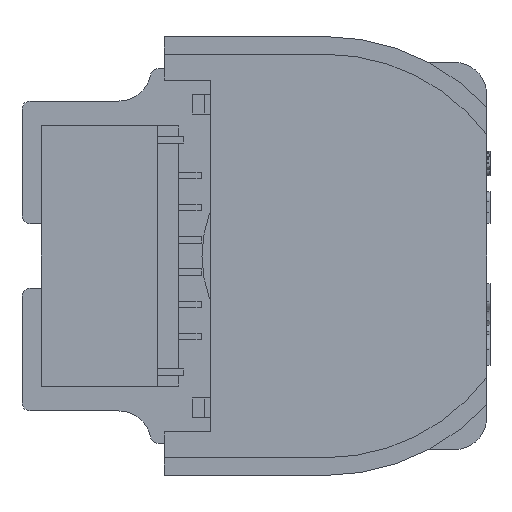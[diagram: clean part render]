
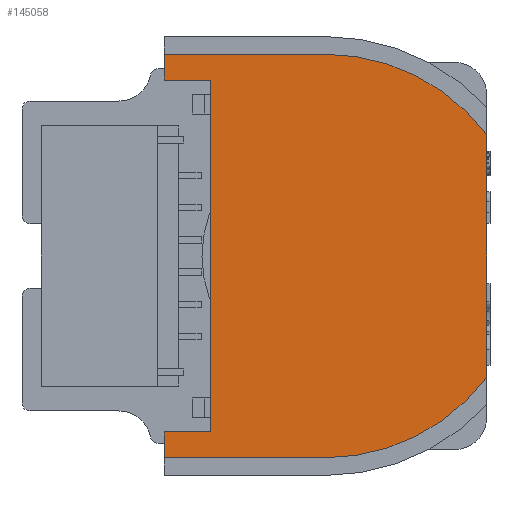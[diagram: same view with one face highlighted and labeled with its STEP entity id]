
A CAD part, left-side view. The second image highlights one B-rep face of the part: STEP entity #145058.
In plain terms, the highlighted planar face has unit normal (-1, 0, 0).
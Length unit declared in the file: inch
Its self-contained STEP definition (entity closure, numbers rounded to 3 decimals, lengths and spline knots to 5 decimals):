
#4003 = VECTOR ( 'NONE', #151403, 39.37008 ) ;
#5570 = VERTEX_POINT ( 'NONE', #100647 ) ;
#5725 = CARTESIAN_POINT ( 'NONE',  ( -0.16142, 0.19685, 0.23622 ) ) ;
#11553 = DIRECTION ( 'NONE',  ( 0., 1., 0. ) ) ;
#11694 = ORIENTED_EDGE ( 'NONE', *, *, #61663, .T. ) ;
#17037 = CARTESIAN_POINT ( 'NONE',  ( -0.16142, 0., 0. ) ) ;
#17810 = VERTEX_POINT ( 'NONE', #121948 ) ;
#20747 = CARTESIAN_POINT ( 'NONE',  ( -0.16142, 0.19685, 0.23622 ) ) ;
#21313 = CARTESIAN_POINT ( 'NONE',  ( -0.16142, 0.19685, 0.24606 ) ) ;
#22237 = VECTOR ( 'NONE', #119502, 39.37008 ) ;
#25087 = EDGE_CURVE ( 'NONE', #36832, #151754, #26352, .T. ) ;
#26256 = LINE ( 'NONE', #91471, #173447 ) ;
#26352 = LINE ( 'NONE', #152398, #4003 ) ;
#30172 = VECTOR ( 'NONE', #52436, 39.37008 ) ;
#32060 = EDGE_CURVE ( 'NONE', #151754, #193365, #153372, .T. ) ;
#32346 = CIRCLE ( 'NONE', #146466, 0.24606 ) ;
#34789 = DIRECTION ( 'NONE',  ( 0., 0., 1. ) ) ;
#35123 = LINE ( 'NONE', #83600, #141204 ) ;
#36830 = EDGE_CURVE ( 'NONE', #5570, #121612, #26256, .T. ) ;
#36832 = VERTEX_POINT ( 'NONE', #75706 ) ;
#37915 = DIRECTION ( 'NONE',  ( 0., 1., 0. ) ) ;
#38774 = ORIENTED_EDGE ( 'NONE', *, *, #110060, .T. ) ;
#40092 = DIRECTION ( 'NONE',  ( -1., 0., 0. ) ) ;
#41241 = VERTEX_POINT ( 'NONE', #57259 ) ;
#42973 = CARTESIAN_POINT ( 'NONE',  ( -0.16142, 0.19685, -0.21457 ) ) ;
#44555 = FACE_OUTER_BOUND ( 'NONE', #169547, .T. ) ;
#45214 = ORIENTED_EDGE ( 'NONE', *, *, #32060, .T. ) ;
#45800 = VERTEX_POINT ( 'NONE', #111929 ) ;
#46245 = EDGE_CURVE ( 'NONE', #133423, #36832, #179245, .T. ) ;
#50314 = ORIENTED_EDGE ( 'NONE', *, *, #25087, .T. ) ;
#52436 = DIRECTION ( 'NONE',  ( 0., -1., 0. ) ) ;
#57259 = CARTESIAN_POINT ( 'NONE',  ( -0.16142, -0.19685, 0.14764 ) ) ;
#57986 = ORIENTED_EDGE ( 'NONE', *, *, #202731, .T. ) ;
#61495 = ORIENTED_EDGE ( 'NONE', *, *, #46245, .T. ) ;
#61498 = ORIENTED_EDGE ( 'NONE', *, *, #36830, .T. ) ;
#61663 = EDGE_CURVE ( 'NONE', #17810, #41241, #114007, .T. ) ;
#69815 = DIRECTION ( 'NONE',  ( 0., 0., -1. ) ) ;
#75706 = CARTESIAN_POINT ( 'NONE',  ( -0.16142, 0.13976, 0.21457 ) ) ;
#79301 = VERTEX_POINT ( 'NONE', #94139 ) ;
#80539 = EDGE_CURVE ( 'NONE', #41241, #5570, #163286, .T. ) ;
#83600 = CARTESIAN_POINT ( 'NONE',  ( -0.16142, 0., -0.24606 ) ) ;
#84258 = CARTESIAN_POINT ( 'NONE',  ( -0.16142, 0.13976, -0.21457 ) ) ;
#84300 = DIRECTION ( 'NONE',  ( -1., 0., 0. ) ) ;
#91471 = CARTESIAN_POINT ( 'NONE',  ( -0.16142, 0.19685, 0.24606 ) ) ;
#92093 = VECTOR ( 'NONE', #111918, 39.37008 ) ;
#94139 = CARTESIAN_POINT ( 'NONE',  ( -0.16142, 0.19685, -0.24606 ) ) ;
#100647 = CARTESIAN_POINT ( 'NONE',  ( -0.16142, 0., 0.24606 ) ) ;
#109659 = DIRECTION ( 'NONE',  ( -1., 0., 0. ) ) ;
#110060 = EDGE_CURVE ( 'NONE', #45800, #17810, #32346, .T. ) ;
#111918 = DIRECTION ( 'NONE',  ( 0., 0., 1. ) ) ;
#111929 = CARTESIAN_POINT ( 'NONE',  ( -0.16142, 0., -0.24606 ) ) ;
#114007 = LINE ( 'NONE', #175756, #92093 ) ;
#119502 = DIRECTION ( 'NONE',  ( 0., 0., -1. ) ) ;
#121019 = CARTESIAN_POINT ( 'NONE',  ( -0.16142, 0., 0. ) ) ;
#121612 = VERTEX_POINT ( 'NONE', #21313 ) ;
#121948 = CARTESIAN_POINT ( 'NONE',  ( -0.16142, -0.19685, -0.14764 ) ) ;
#123354 = DIRECTION ( 'NONE',  ( 0., 0., 1. ) ) ;
#124072 = DIRECTION ( 'NONE',  ( 0., 0., 1. ) ) ;
#124364 = ORIENTED_EDGE ( 'NONE', *, *, #157548, .T. ) ;
#133423 = VERTEX_POINT ( 'NONE', #154181 ) ;
#141204 = VECTOR ( 'NONE', #165185, 39.37008 ) ;
#145058 = ADVANCED_FACE ( 'NONE', ( #44555 ), #156836, .T. ) ;
#146466 = AXIS2_PLACEMENT_3D ( 'NONE', #121019, #40092, #124072 ) ;
#146612 = ORIENTED_EDGE ( 'NONE', *, *, #173590, .T. ) ;
#149966 = AXIS2_PLACEMENT_3D ( 'NONE', #17037, #84300, #34789 ) ;
#151035 = CARTESIAN_POINT ( 'NONE',  ( -0.16142, 0.19685, 0.21457 ) ) ;
#151403 = DIRECTION ( 'NONE',  ( 0., 0., -1. ) ) ;
#151754 = VERTEX_POINT ( 'NONE', #84258 ) ;
#152231 = ORIENTED_EDGE ( 'NONE', *, *, #80539, .T. ) ;
#152398 = CARTESIAN_POINT ( 'NONE',  ( -0.16142, 0.13976, 0.21457 ) ) ;
#153372 = LINE ( 'NONE', #181588, #162218 ) ;
#154181 = CARTESIAN_POINT ( 'NONE',  ( -0.16142, 0.19685, 0.21457 ) ) ;
#156836 = PLANE ( 'NONE',  #206038 ) ;
#157548 = EDGE_CURVE ( 'NONE', #79301, #45800, #35123, .T. ) ;
#162218 = VECTOR ( 'NONE', #37915, 39.37008 ) ;
#163286 = CIRCLE ( 'NONE', #149966, 0.24606 ) ;
#164476 = LINE ( 'NONE', #20747, #22237 ) ;
#165185 = DIRECTION ( 'NONE',  ( 0., -1., 0. ) ) ;
#167216 = LINE ( 'NONE', #5725, #182667 ) ;
#169547 = EDGE_LOOP ( 'NONE', ( #61495, #50314, #45214, #146612, #124364, #38774, #11694, #152231, #61498, #57986 ) ) ;
#173447 = VECTOR ( 'NONE', #11553, 39.37008 ) ;
#173590 = EDGE_CURVE ( 'NONE', #193365, #79301, #167216, .T. ) ;
#175756 = CARTESIAN_POINT ( 'NONE',  ( -0.16142, -0.19685, 0.13674 ) ) ;
#179245 = LINE ( 'NONE', #151035, #30172 ) ;
#181588 = CARTESIAN_POINT ( 'NONE',  ( -0.16142, 0.13976, -0.21457 ) ) ;
#182667 = VECTOR ( 'NONE', #69815, 39.37008 ) ;
#189126 = CARTESIAN_POINT ( 'NONE',  ( -0.16142, 0., 0. ) ) ;
#193365 = VERTEX_POINT ( 'NONE', #42973 ) ;
#202731 = EDGE_CURVE ( 'NONE', #121612, #133423, #164476, .T. ) ;
#206038 = AXIS2_PLACEMENT_3D ( 'NONE', #189126, #109659, #123354 ) ;
